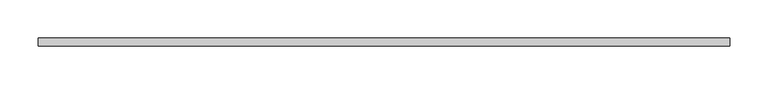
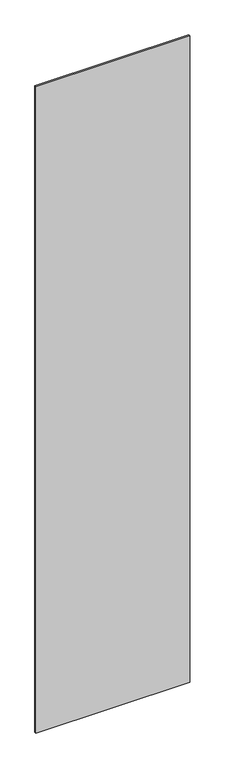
"""IFC4 building model written with IfcOpenShell, lengths in millimetres: plate geometry, システム パネル : 標準."""

from ifc_helpers import new_model, si_unit, origin, origin_with_axes, place, context, project, spatial, polyline, outline, extrude, source, transform, mapped, element, save


def plate_d1366ea1(model_context):
    return source(origin(), model_context, "Body", "SweptSolid", [
        extrude(outline(polyline([(450.0, -5.0), (-450.0, -5.0), (-450.0, 5.0), (450.0, 5.0), (450.0, -5.0)])), origin_with_axes(), (0.0, 0.0, 1.0), 4000.0),
    ])


if __name__ == "__main__":
    model = new_model("IFC4")
    model_context = context("Model", 3, world=origin())
    ifc_project = project(units=[si_unit("LENGTHUNIT", "METRE", prefix="MILLI")], contexts=[model_context])
    site = spatial("IfcSite", under=ifc_project)
    building = spatial("IfcBuilding", under=site)
    placement = place(None, origin())
    plate_shape = plate_d1366ea1(model_context)
    element("IfcPlate", 1, ObjectType="システム パネル : 標準", at=placement, inside=building, context=model_context, shape_type="MappedRepresentation", body=[
        mapped(plate_shape, transform((0.0, 0.0, 0.0), x_axis=(1.0, 0.0, 0.0), y_axis=(0.0, 1.0, 0.0), z_axis=(0.0, 0.0, 1.0))),
    ])
    save(model, "model.ifc")
